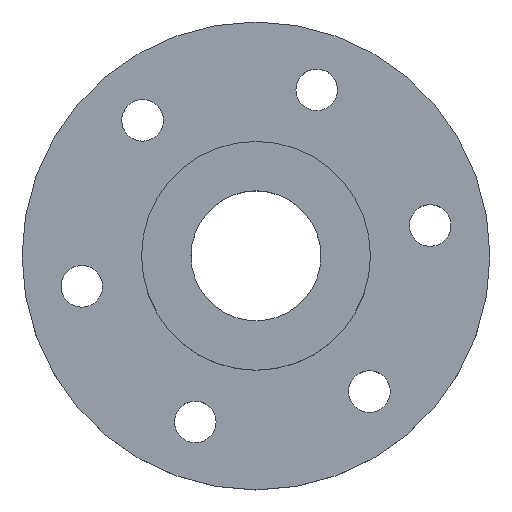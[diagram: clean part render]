
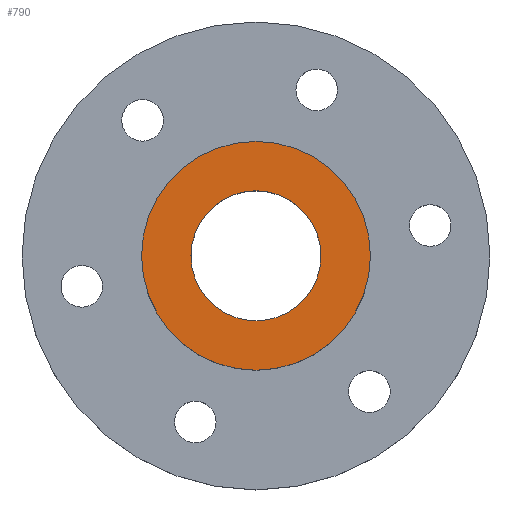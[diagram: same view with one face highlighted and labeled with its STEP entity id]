
A CAD part, top view. The second image highlights one B-rep face of the part: STEP entity #790.
In plain terms, the highlighted planar face has unit normal (0, 0, 1).
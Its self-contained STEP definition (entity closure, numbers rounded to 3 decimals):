
#253 = CYLINDRICAL_SURFACE('',#254,12.499);
#254 = AXIS2_PLACEMENT_3D('',#255,#256,#257);
#255 = CARTESIAN_POINT('',(0.794,-0.025,-0.05));
#256 = DIRECTION('',(-0.,-0.,-1.));
#257 = DIRECTION('',(1.,0.,0.));
#630 = VERTEX_POINT('',#631);
#631 = CARTESIAN_POINT('',(13.293,-0.025,25.187));
#652 = EDGE_CURVE('',#630,#630,#653,.T.);
#653 = SURFACE_CURVE('',#654,(#659,#666),.PCURVE_S1.);
#654 = CIRCLE('',#655,12.499);
#655 = AXIS2_PLACEMENT_3D('',#656,#657,#658);
#656 = CARTESIAN_POINT('',(0.794,-0.025,25.187));
#657 = DIRECTION('',(0.,0.,-1.));
#658 = DIRECTION('',(1.,0.,0.));
#659 = PCURVE('',#253,#660);
#660 = DEFINITIONAL_REPRESENTATION('',(#661),#665);
#661 = LINE('',#662,#663);
#662 = CARTESIAN_POINT('',(-6.283,-25.237));
#663 = VECTOR('',#664,1.);
#664 = DIRECTION('',(1.,-0.));
#665 = ( GEOMETRIC_REPRESENTATION_CONTEXT(2) 
PARAMETRIC_REPRESENTATION_CONTEXT() REPRESENTATION_CONTEXT('2D SPACE',''
  ) );
#666 = PCURVE('',#667,#672);
#667 = PLANE('',#668);
#668 = AXIS2_PLACEMENT_3D('',#669,#670,#671);
#669 = CARTESIAN_POINT('',(0.797,-0.027,25.187));
#670 = DIRECTION('',(0.,0.,1.));
#671 = DIRECTION('',(1.,0.,-0.));
#672 = DEFINITIONAL_REPRESENTATION('',(#673),#681);
#673 = ( BOUNDED_CURVE() B_SPLINE_CURVE(2,(#674,#675,#676,#677,#678,#679
,#680),.UNSPECIFIED.,.T.,.F.) B_SPLINE_CURVE_WITH_KNOTS((1,2,2,2,2,1),(
    -2.094,0.,2.094,4.189,6.283,
8.378),.UNSPECIFIED.) CURVE() GEOMETRIC_REPRESENTATION_ITEM() 
RATIONAL_B_SPLINE_CURVE((1.,0.5,1.,0.5,1.,0.5,1.)) REPRESENTATION_ITEM(
  '') );
#674 = CARTESIAN_POINT('',(12.496,0.002));
#675 = CARTESIAN_POINT('',(12.496,-21.647));
#676 = CARTESIAN_POINT('',(-6.253,-10.822));
#677 = CARTESIAN_POINT('',(-25.001,0.002));
#678 = CARTESIAN_POINT('',(-6.253,10.826));
#679 = CARTESIAN_POINT('',(12.496,21.651));
#680 = CARTESIAN_POINT('',(12.496,0.002));
#681 = ( GEOMETRIC_REPRESENTATION_CONTEXT(2) 
PARAMETRIC_REPRESENTATION_CONTEXT() REPRESENTATION_CONTEXT('2D SPACE',''
  ) );
#767 = CYLINDRICAL_SURFACE('',#768,21.998);
#768 = AXIS2_PLACEMENT_3D('',#769,#770,#771);
#769 = CARTESIAN_POINT('',(0.797,-0.027,10.));
#770 = DIRECTION('',(0.,0.,1.));
#771 = DIRECTION('',(1.,0.,-0.));
#790 = ADVANCED_FACE('',(#791,#817),#667,.T.);
#791 = FACE_BOUND('',#792,.T.);
#792 = EDGE_LOOP('',(#793));
#793 = ORIENTED_EDGE('',*,*,#794,.T.);
#794 = EDGE_CURVE('',#795,#795,#797,.T.);
#795 = VERTEX_POINT('',#796);
#796 = CARTESIAN_POINT('',(22.795,-0.027,25.187));
#797 = SURFACE_CURVE('',#798,(#803,#810),.PCURVE_S1.);
#798 = CIRCLE('',#799,21.998);
#799 = AXIS2_PLACEMENT_3D('',#800,#801,#802);
#800 = CARTESIAN_POINT('',(0.797,-0.027,25.187));
#801 = DIRECTION('',(0.,0.,1.));
#802 = DIRECTION('',(1.,0.,-0.));
#803 = PCURVE('',#667,#804);
#804 = DEFINITIONAL_REPRESENTATION('',(#805),#809);
#805 = CIRCLE('',#806,21.998);
#806 = AXIS2_PLACEMENT_2D('',#807,#808);
#807 = CARTESIAN_POINT('',(0.,0.));
#808 = DIRECTION('',(1.,0.));
#809 = ( GEOMETRIC_REPRESENTATION_CONTEXT(2) 
PARAMETRIC_REPRESENTATION_CONTEXT() REPRESENTATION_CONTEXT('2D SPACE',''
  ) );
#810 = PCURVE('',#767,#811);
#811 = DEFINITIONAL_REPRESENTATION('',(#812),#816);
#812 = LINE('',#813,#814);
#813 = CARTESIAN_POINT('',(0.,15.187));
#814 = VECTOR('',#815,1.);
#815 = DIRECTION('',(1.,0.));
#816 = ( GEOMETRIC_REPRESENTATION_CONTEXT(2) 
PARAMETRIC_REPRESENTATION_CONTEXT() REPRESENTATION_CONTEXT('2D SPACE',''
  ) );
#817 = FACE_BOUND('',#818,.T.);
#818 = EDGE_LOOP('',(#819));
#819 = ORIENTED_EDGE('',*,*,#652,.T.);
